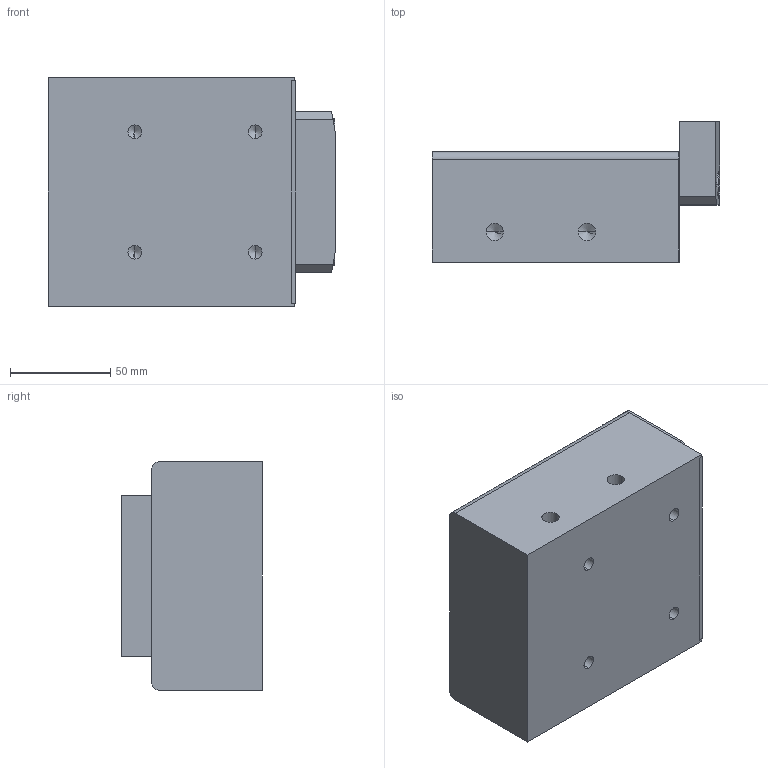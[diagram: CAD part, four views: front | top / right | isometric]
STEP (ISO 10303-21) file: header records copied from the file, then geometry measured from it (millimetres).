
FILE_DESCRIPTION (( 'STEP AP203' ), '1' );
FILE_NAME ('DEUSD-400.STEP', '2008-07-17T06:44:00', ( '' ), ( '' ), 'SwSTEP 2.0', 'SolidWorks 2007', '' );
FILE_SCHEMA (( 'CONFIG_CONTROL_DESIGN' ));
Length unit declared in the file: millimetre
Products named in the file (1): DEUSD-400
Bounding box: 143 x 70 x 114 mm (x, y, z)
Volume: 830358.3 mm3; surface area: 82146.6 mm2
Topology: 3 solids, 3 shells, 169 faces, 426 edges, 274 vertices
Faces by surface type: plane 115, cylinder 34, cone 20
Entity records: 5037 total; most frequent: CARTESIAN_POINT 870, DIRECTION 838, ORIENTED_EDGE 828, EDGE_CURVE 414, VECTOR 322, LINE 322, VERTEX_POINT 274, AXIS2_PLACEMENT_3D 258
